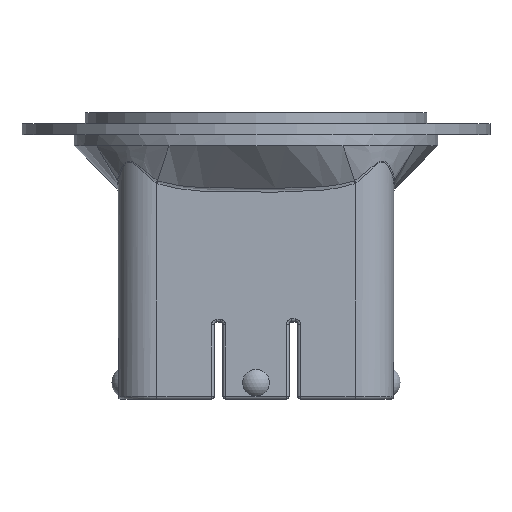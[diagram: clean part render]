
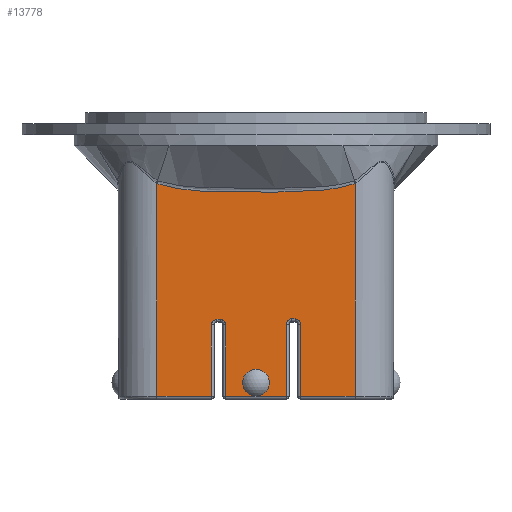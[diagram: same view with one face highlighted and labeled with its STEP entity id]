
A CAD part, left-side view. The second image highlights one B-rep face of the part: STEP entity #13778.
In plain terms, the highlighted planar face has unit normal (-1, 0, 0).
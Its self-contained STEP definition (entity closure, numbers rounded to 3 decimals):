
#117=FACE_BOUND('',#2291,.T.);
#294=PLANE('',#14512);
#1427=FACE_OUTER_BOUND('',#2290,.T.);
#2290=EDGE_LOOP('',(#12507,#12508,#12509,#12510,#12511,#12512,#12513,#12514,
#12515,#12516,#12517,#12518,#12519,#12520,#12521,#12522));
#2291=EDGE_LOOP('',(#12523));
#3164=B_SPLINE_CURVE_WITH_KNOTS('',3,(#36876,#36877,#36878,#36879,#36880,
#36881,#36882,#36883,#36884,#36885,#36886,#36887,#36888,#36889,#36890,#36891,
#36892,#36893),.UNSPECIFIED.,.F.,.F.,(4,2,2,2,2,2,2,2,4),(-4.29,
-3.579,-2.872,-2.43,-2.154,
-1.878,-1.436,-0.835,-0.01),
 .UNSPECIFIED.);
#3390=CIRCLE('',#14373,2.437);
#3394=CIRCLE('',#14381,1.);
#3398=CIRCLE('',#14387,1.);
#3402=CIRCLE('',#14395,1.);
#3406=CIRCLE('',#14401,1.);
#4343=LINE('',#36518,#5268);
#4345=LINE('',#36521,#5270);
#4347=LINE('',#36527,#5272);
#4349=LINE('',#36539,#5274);
#4351=LINE('',#36548,#5276);
#4352=LINE('',#36550,#5277);
#4355=LINE('',#36557,#5280);
#4357=LINE('',#36569,#5282);
#4359=LINE('',#36899,#5284);
#4415=LINE('',#37429,#5340);
#4416=LINE('',#37431,#5341);
#5268=VECTOR('',#16457,1.);
#5270=VECTOR('',#16461,1.);
#5272=VECTOR('',#16467,1.);
#5274=VECTOR('',#16481,1.);
#5276=VECTOR('',#16493,1.);
#5277=VECTOR('',#16496,1.);
#5280=VECTOR('',#16503,1.);
#5282=VECTOR('',#16517,1.);
#5284=VECTOR('',#16531,1.);
#5340=VECTOR('',#16803,1.);
#5341=VECTOR('',#16806,1.);
#6520=VERTEX_POINT('',#33189);
#6523=VERTEX_POINT('',#33196);
#6526=VERTEX_POINT('',#33203);
#6533=VERTEX_POINT('',#34007);
#6552=VERTEX_POINT('',#34079);
#6597=VERTEX_POINT('',#36352);
#6599=VERTEX_POINT('',#36515);
#6600=VERTEX_POINT('',#36523);
#6602=VERTEX_POINT('',#36529);
#6604=VERTEX_POINT('',#36535);
#6606=VERTEX_POINT('',#36541);
#6608=VERTEX_POINT('',#36553);
#6610=VERTEX_POINT('',#36559);
#6612=VERTEX_POINT('',#36565);
#6614=VERTEX_POINT('',#36571);
#6616=VERTEX_POINT('',#36895);
#6665=VERTEX_POINT('',#37427);
#8503=EDGE_CURVE('',#6599,#6599,#3390,.T.);
#8504=EDGE_CURVE('',#6533,#6552,#4343,.T.);
#8506=EDGE_CURVE('',#6552,#6520,#4345,.T.);
#8509=EDGE_CURVE('',#6520,#6600,#4347,.T.);
#8512=EDGE_CURVE('',#6600,#6602,#3394,.T.);
#8515=EDGE_CURVE('',#6602,#6604,#4349,.T.);
#8518=EDGE_CURVE('',#6604,#6606,#3398,.T.);
#8520=EDGE_CURVE('',#6606,#6523,#4351,.T.);
#8521=EDGE_CURVE('',#6523,#6526,#4352,.T.);
#8525=EDGE_CURVE('',#6526,#6608,#4355,.T.);
#8528=EDGE_CURVE('',#6608,#6610,#3402,.T.);
#8531=EDGE_CURVE('',#6610,#6612,#4357,.T.);
#8534=EDGE_CURVE('',#6612,#6614,#3406,.T.);
#8535=EDGE_CURVE('',#6597,#6533,#3164,.T.);
#8538=EDGE_CURVE('',#6614,#6616,#4359,.T.);
#8648=EDGE_CURVE('',#6665,#6597,#4415,.T.);
#8649=EDGE_CURVE('',#6616,#6665,#4416,.T.);
#12507=ORIENTED_EDGE('',*,*,#8535,.F.);
#12508=ORIENTED_EDGE('',*,*,#8648,.F.);
#12509=ORIENTED_EDGE('',*,*,#8649,.F.);
#12510=ORIENTED_EDGE('',*,*,#8538,.F.);
#12511=ORIENTED_EDGE('',*,*,#8534,.F.);
#12512=ORIENTED_EDGE('',*,*,#8531,.F.);
#12513=ORIENTED_EDGE('',*,*,#8528,.F.);
#12514=ORIENTED_EDGE('',*,*,#8525,.F.);
#12515=ORIENTED_EDGE('',*,*,#8521,.F.);
#12516=ORIENTED_EDGE('',*,*,#8520,.F.);
#12517=ORIENTED_EDGE('',*,*,#8518,.F.);
#12518=ORIENTED_EDGE('',*,*,#8515,.F.);
#12519=ORIENTED_EDGE('',*,*,#8512,.F.);
#12520=ORIENTED_EDGE('',*,*,#8509,.F.);
#12521=ORIENTED_EDGE('',*,*,#8506,.F.);
#12522=ORIENTED_EDGE('',*,*,#8504,.F.);
#12523=ORIENTED_EDGE('',*,*,#8503,.T.);
#13778=ADVANCED_FACE('',(#1427,#117),#294,.T.);
#14373=AXIS2_PLACEMENT_3D('',#36516,#16453,#16454);
#14381=AXIS2_PLACEMENT_3D('',#36533,#16474,#16475);
#14387=AXIS2_PLACEMENT_3D('',#36545,#16488,#16489);
#14395=AXIS2_PLACEMENT_3D('',#36563,#16510,#16511);
#14401=AXIS2_PLACEMENT_3D('',#36575,#16524,#16525);
#14512=AXIS2_PLACEMENT_3D('',#37430,#16804,#16805);
#16453=DIRECTION('center_axis',(1.,0.,0.));
#16454=DIRECTION('ref_axis',(0.,0.,-1.));
#16457=DIRECTION('',(0.,0.,-1.));
#16461=DIRECTION('',(0.,1.,0.));
#16467=DIRECTION('',(0.,0.,1.));
#16474=DIRECTION('center_axis',(-1.,0.,0.));
#16475=DIRECTION('ref_axis',(0.,-0.707,0.707));
#16481=DIRECTION('',(0.,1.,0.));
#16488=DIRECTION('center_axis',(-1.,0.,0.));
#16489=DIRECTION('ref_axis',(0.,0.707,0.707));
#16493=DIRECTION('',(0.,0.,-1.));
#16496=DIRECTION('',(0.,1.,0.));
#16503=DIRECTION('',(0.,0.,1.));
#16510=DIRECTION('center_axis',(-1.,0.,0.));
#16511=DIRECTION('ref_axis',(0.,-0.707,0.707));
#16517=DIRECTION('',(0.,1.,0.));
#16524=DIRECTION('center_axis',(-1.,0.,0.));
#16525=DIRECTION('ref_axis',(0.,0.707,0.707));
#16531=DIRECTION('',(0.,0.,-1.));
#16803=DIRECTION('',(0.,0.,1.));
#16804=DIRECTION('center_axis',(-1.,0.,0.));
#16805=DIRECTION('ref_axis',(0.,1.,0.));
#16806=DIRECTION('',(0.,1.,0.));
#33189=CARTESIAN_POINT('',(0.,16.912,0.5));
#33196=CARTESIAN_POINT('',(0.,19.5,0.5));
#33203=CARTESIAN_POINT('',(0.,30.5,0.5));
#34007=CARTESIAN_POINT('',(0.,7.,39.165));
#34079=CARTESIAN_POINT('',(0.,7.,0.5));
#36352=CARTESIAN_POINT('',(0.,43.,39.165));
#36515=CARTESIAN_POINT('',(0.,25.,5.437));
#36516=CARTESIAN_POINT('Origin',(0.,25.,
3.));
#36518=CARTESIAN_POINT('',(0.,7.,0.));
#36521=CARTESIAN_POINT('',(0.,25.,0.5));
#36523=CARTESIAN_POINT('',(0.,16.912,13.604));
#36527=CARTESIAN_POINT('',(0.,16.912,3.5));
#36529=CARTESIAN_POINT('',(0.,17.912,14.604));
#36533=CARTESIAN_POINT('Origin',(0.,17.912,
13.604));
#36535=CARTESIAN_POINT('',(0.,18.5,14.604));
#36539=CARTESIAN_POINT('',(0.,21.603,14.604));
#36541=CARTESIAN_POINT('',(0.,19.5,13.604));
#36545=CARTESIAN_POINT('Origin',(0.,18.5,
13.604));
#36548=CARTESIAN_POINT('',(0.,19.5,3.5));
#36550=CARTESIAN_POINT('',(0.,25.,0.5));
#36553=CARTESIAN_POINT('',(0.,30.5,13.5));
#36557=CARTESIAN_POINT('',(0.,30.5,3.5));
#36559=CARTESIAN_POINT('',(0.,31.5,14.5));
#36563=CARTESIAN_POINT('Origin',(0.,31.5,
13.5));
#36565=CARTESIAN_POINT('',(0.,32.087,14.5));
#36569=CARTESIAN_POINT('',(0.,28.397,14.5));
#36571=CARTESIAN_POINT('',(0.,33.087,13.5));
#36575=CARTESIAN_POINT('Origin',(0.,32.087,
13.5));
#36876=CARTESIAN_POINT('Ctrl Pts',(0.,43.,39.165));
#36877=CARTESIAN_POINT('Ctrl Pts',(0.,41.774,
38.743));
#36878=CARTESIAN_POINT('Ctrl Pts',(0.,40.446,
38.429));
#36879=CARTESIAN_POINT('Ctrl Pts',(0.,37.518,
37.965));
#36880=CARTESIAN_POINT('Ctrl Pts',(0.,35.921,
37.816));
#36881=CARTESIAN_POINT('Ctrl Pts',(0.,33.045,
37.67));
#36882=CARTESIAN_POINT('Ctrl Pts',(0.,31.872,
37.637));
#36883=CARTESIAN_POINT('Ctrl Pts',(0.,29.843,
37.605));
#36884=CARTESIAN_POINT('Ctrl Pts',(0.,29.033,
37.597));
#36885=CARTESIAN_POINT('Ctrl Pts',(0.,27.35,
37.588));
#36886=CARTESIAN_POINT('Ctrl Pts',(0.,26.478,
37.587));
#36887=CARTESIAN_POINT('Ctrl Pts',(0.,24.12,
37.585));
#36888=CARTESIAN_POINT('Ctrl Pts',(0.,22.623,
37.586));
#36889=CARTESIAN_POINT('Ctrl Pts',(0.,19.123,
37.612));
#36890=CARTESIAN_POINT('Ctrl Pts',(0.,17.103,
37.644));
#36891=CARTESIAN_POINT('Ctrl Pts',(0.,12.349,
37.94));
#36892=CARTESIAN_POINT('Ctrl Pts',(0.,9.6,
38.269));
#36893=CARTESIAN_POINT('Ctrl Pts',(0.,7.,
39.165));
#36895=CARTESIAN_POINT('',(0.,33.087,0.5));
#36899=CARTESIAN_POINT('',(0.,33.087,3.5));
#37427=CARTESIAN_POINT('',(0.,43.,0.5));
#37429=CARTESIAN_POINT('',(0.,43.,0.));
#37430=CARTESIAN_POINT('Origin',(0.,25.,0.));
#37431=CARTESIAN_POINT('',(0.,25.,0.5));
